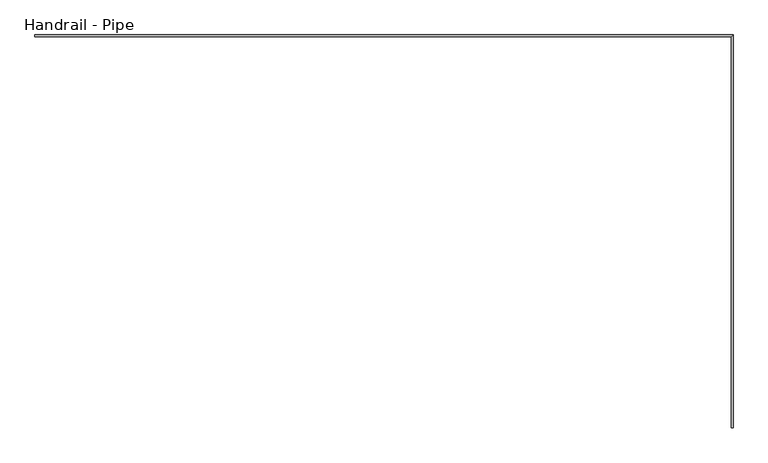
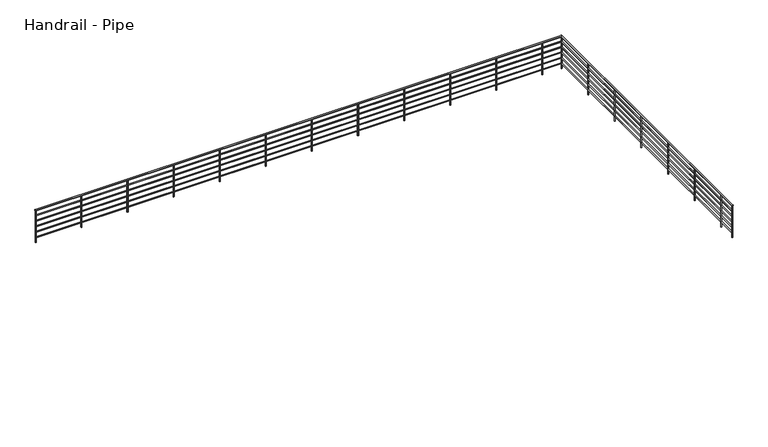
"""IFC4 building model written with IfcOpenShell, lengths in millimetres: railing geometry, Handrail - Pipe."""

from ifc_helpers import new_model, si_unit, point, frame, frame_2d, origin, place, context, project, spatial, circle_curve, ellipse_curve, trimmed, segment, composite_curve, outline, extrude, source, transform, mapped, element, save
from ifc_brep_helpers import plane_surface, cylinder_surface, advanced_brep


def handrail_pipe_d176f250(model_context):
    return source(origin(), model_context, "Body", "SolidModel", [
        advanced_brep(
        [(-11622.0589563, 11963.8816867, 3943.35), (-11622.0589563, 11925.7816867, 3943.35), (2316.1910437, 4121.6316867, 3943.35), (2278.0910437, 4121.6316867, 3943.35), (2316.1910437, 11963.8816867, 3943.35), (2278.0910437, 11925.7816867, 3943.35)],
        [
            (0, 1, circle_curve(frame((-11622.0589563, 11944.8316867, 3943.35), z_axis=(-1.0, 0.0, 0.0), x_axis=(0.0, -1.0, 0.0)), 19.05)),
            (1, 0, circle_curve(frame((-11622.0589563, 11944.8316867, 3943.35), z_axis=(-1.0, 0.0, 0.0), x_axis=(0.0, -1.0, 0.0)), 19.05)),
            (2, 3, circle_curve(frame((2297.1410437, 4121.6316867, 3943.35), z_axis=(0.0, -1.0, 0.0), x_axis=(-1.0, 0.0, 0.0)), 19.05)),
            (3, 2, circle_curve(frame((2297.1410437, 4121.6316867, 3943.35), z_axis=(0.0, -1.0, 0.0), x_axis=(-1.0, 0.0, 0.0)), 19.05)),
            (0, 4),
            (4, 5, ellipse_curve(frame((2297.1410437, 11944.8316867, 3943.35), z_axis=(-0.7071067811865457, 0.7071067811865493, 0.0), x_axis=(-0.7071067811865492, -0.7071067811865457, 0.0)), 26.9407684, 19.05)),
            (5, 1),
            (5, 4, ellipse_curve(frame((2297.1410437, 11944.8316867, 3943.35), z_axis=(-0.7071067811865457, 0.7071067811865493, 0.0), x_axis=(-0.7071067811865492, -0.7071067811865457, 0.0)), 26.9407684, 19.05)),
            (4, 2),
            (3, 5),
        ],
        [
            plane_surface(frame((-11622.0589563, 11944.8316867, 3962.4), z_axis=(-1.0, 0.0, 0.0), x_axis=(0.0, 1.0, 0.0))),
            plane_surface(frame((2297.1410437, 4121.6316867, 3962.4), z_axis=(0.0, -1.0, 0.0), x_axis=(0.0, 0.0, -1.0))),
            cylinder_surface(frame((-11622.0589563, 11944.8316867, 3943.35), z_axis=(-1.0, 0.0, 0.0), x_axis=(0.0, -1.0, 0.0)), 19.05),
            cylinder_surface(frame((2297.1410437, 11944.8316867, 3943.35), z_axis=(0.0, 1.0, 0.0), x_axis=(-1.0, 0.0, 0.0)), 19.05),
        ],
        [
            (0, [[1, 2]]),
            (1, [[3, 4]]),
            (2, [[-1, 5, 6, 7]]),
            (2, [[-2, -7, 8, -5]]),
            (3, [[-6, 9, -4, 10]]),
            (3, [[-8, -10, -3, -9]]),
        ],
    ),
        advanced_brep(
        [(-11622.0589563, 11957.5316867, 3797.3), (-11622.0589563, 11932.1316867, 3797.3), (2309.8410437, 11957.5316867, 3797.3), (2284.4410437, 11932.1316867, 3797.3), (2309.8410437, 4121.6316867, 3797.3), (2284.4410437, 4121.6316867, 3797.3)],
        [
            (0, 1, circle_curve(frame((-11622.0589563, 11944.8316867, 3797.3), z_axis=(-1.0, 0.0, 0.0), x_axis=(0.0, -1.0, 0.0)), 12.7)),
            (1, 0, circle_curve(frame((-11622.0589563, 11944.8316867, 3797.3), z_axis=(-1.0, 0.0, 0.0), x_axis=(0.0, -1.0, 0.0)), 12.7)),
            (0, 2),
            (2, 3, ellipse_curve(frame((2297.1410437, 11944.8316867, 3797.3), z_axis=(-0.7071067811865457, 0.7071067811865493, 0.0), x_axis=(-0.7071067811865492, -0.7071067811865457, 0.0)), 17.9605122, 12.7)),
            (3, 1),
            (3, 2, ellipse_curve(frame((2297.1410437, 11944.8316867, 3797.3), z_axis=(-0.7071067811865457, 0.7071067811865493, 0.0), x_axis=(-0.7071067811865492, -0.7071067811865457, 0.0)), 17.9605122, 12.7)),
            (4, 5, circle_curve(frame((2297.1410437, 4121.6316867, 3797.3), z_axis=(0.0, -1.0, 0.0), x_axis=(-1.0, 0.0, 0.0)), 12.7)),
            (5, 4, circle_curve(frame((2297.1410437, 4121.6316867, 3797.3), z_axis=(0.0, -1.0, 0.0), x_axis=(-1.0, 0.0, 0.0)), 12.7)),
            (2, 4),
            (5, 3),
        ],
        [
            plane_surface(frame((-11622.0589563, 11944.8316867, 3810.0), z_axis=(-1.0, 0.0, 0.0), x_axis=(0.0, 1.0, 0.0))),
            cylinder_surface(frame((-11622.0589563, 11944.8316867, 3797.3), z_axis=(-1.0, 0.0, 0.0), x_axis=(0.0, -1.0, 0.0)), 12.7),
            plane_surface(frame((2297.1410437, 4121.6316867, 3810.0), z_axis=(0.0, -1.0, 0.0), x_axis=(0.0, 0.0, -1.0))),
            cylinder_surface(frame((2297.1410437, 11944.8316867, 3797.3), z_axis=(0.0, 1.0, 0.0), x_axis=(-1.0, 0.0, 0.0)), 12.7),
        ],
        [
            (0, [[1, 2]]),
            (1, [[-1, 3, 4, 5]]),
            (1, [[-2, -5, 6, -3]]),
            (2, [[7, 8]]),
            (3, [[-4, 9, -8, 10]]),
            (3, [[-6, -10, -7, -9]]),
        ],
    ),
        advanced_brep(
        [(-11622.0589563, 11957.5316867, 3644.9), (-11622.0589563, 11932.1316867, 3644.9), (2309.8410437, 11957.5316867, 3644.9), (2284.4410437, 11932.1316867, 3644.9), (2309.8410437, 4121.6316867, 3644.9), (2284.4410437, 4121.6316867, 3644.9)],
        [
            (0, 1, circle_curve(frame((-11622.0589563, 11944.8316867, 3644.9), z_axis=(-1.0, 0.0, 0.0), x_axis=(0.0, -1.0, 0.0)), 12.7)),
            (1, 0, circle_curve(frame((-11622.0589563, 11944.8316867, 3644.9), z_axis=(-1.0, 0.0, 0.0), x_axis=(0.0, -1.0, 0.0)), 12.7)),
            (0, 2),
            (2, 3, ellipse_curve(frame((2297.1410437, 11944.8316867, 3644.9), z_axis=(-0.7071067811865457, 0.7071067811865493, 0.0), x_axis=(-0.7071067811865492, -0.7071067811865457, 0.0)), 17.9605122, 12.7)),
            (3, 1),
            (3, 2, ellipse_curve(frame((2297.1410437, 11944.8316867, 3644.9), z_axis=(-0.7071067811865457, 0.7071067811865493, 0.0), x_axis=(-0.7071067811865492, -0.7071067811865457, 0.0)), 17.9605122, 12.7)),
            (4, 5, circle_curve(frame((2297.1410437, 4121.6316867, 3644.9), z_axis=(0.0, -1.0, 0.0), x_axis=(-1.0, 0.0, 0.0)), 12.7)),
            (5, 4, circle_curve(frame((2297.1410437, 4121.6316867, 3644.9), z_axis=(0.0, -1.0, 0.0), x_axis=(-1.0, 0.0, 0.0)), 12.7)),
            (2, 4),
            (5, 3),
        ],
        [
            plane_surface(frame((-11622.0589563, 11944.8316867, 3657.6), z_axis=(-1.0, 0.0, 0.0), x_axis=(0.0, 1.0, 0.0))),
            cylinder_surface(frame((-11622.0589563, 11944.8316867, 3644.9), z_axis=(-1.0, 0.0, 0.0), x_axis=(0.0, -1.0, 0.0)), 12.7),
            plane_surface(frame((2297.1410437, 4121.6316867, 3657.6), z_axis=(0.0, -1.0, 0.0), x_axis=(0.0, 0.0, -1.0))),
            cylinder_surface(frame((2297.1410437, 11944.8316867, 3644.9), z_axis=(0.0, 1.0, 0.0), x_axis=(-1.0, 0.0, 0.0)), 12.7),
        ],
        [
            (0, [[1, 2]]),
            (1, [[-1, 3, 4, 5]]),
            (1, [[-2, -5, 6, -3]]),
            (2, [[7, 8]]),
            (3, [[-4, 9, -8, 10]]),
            (3, [[-6, -10, -7, -9]]),
        ],
    ),
        advanced_brep(
        [(-11622.0589563, 11957.5316867, 3492.5), (-11622.0589563, 11932.1316867, 3492.5), (2309.8410437, 11957.5316867, 3492.5), (2284.4410437, 11932.1316867, 3492.5), (2309.8410437, 4121.6316867, 3492.5), (2284.4410437, 4121.6316867, 3492.5)],
        [
            (0, 1, circle_curve(frame((-11622.0589563, 11944.8316867, 3492.5), z_axis=(-1.0, 0.0, 0.0), x_axis=(0.0, -1.0, 0.0)), 12.7)),
            (1, 0, circle_curve(frame((-11622.0589563, 11944.8316867, 3492.5), z_axis=(-1.0, 0.0, 0.0), x_axis=(0.0, -1.0, 0.0)), 12.7)),
            (0, 2),
            (2, 3, ellipse_curve(frame((2297.1410437, 11944.8316867, 3492.5), z_axis=(-0.7071067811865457, 0.7071067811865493, 0.0), x_axis=(-0.7071067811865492, -0.7071067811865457, 0.0)), 17.9605122, 12.7)),
            (3, 1),
            (3, 2, ellipse_curve(frame((2297.1410437, 11944.8316867, 3492.5), z_axis=(-0.7071067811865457, 0.7071067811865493, 0.0), x_axis=(-0.7071067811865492, -0.7071067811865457, 0.0)), 17.9605122, 12.7)),
            (4, 5, circle_curve(frame((2297.1410437, 4121.6316867, 3492.5), z_axis=(0.0, -1.0, 0.0), x_axis=(-1.0, 0.0, 0.0)), 12.7)),
            (5, 4, circle_curve(frame((2297.1410437, 4121.6316867, 3492.5), z_axis=(0.0, -1.0, 0.0), x_axis=(-1.0, 0.0, 0.0)), 12.7)),
            (2, 4),
            (5, 3),
        ],
        [
            plane_surface(frame((-11622.0589563, 11944.8316867, 3505.2), z_axis=(-1.0, 0.0, 0.0), x_axis=(0.0, 1.0, 0.0))),
            cylinder_surface(frame((-11622.0589563, 11944.8316867, 3492.5), z_axis=(-1.0, 0.0, 0.0), x_axis=(0.0, -1.0, 0.0)), 12.7),
            plane_surface(frame((2297.1410437, 4121.6316867, 3505.2), z_axis=(0.0, -1.0, 0.0), x_axis=(0.0, 0.0, -1.0))),
            cylinder_surface(frame((2297.1410437, 11944.8316867, 3492.5), z_axis=(0.0, 1.0, 0.0), x_axis=(-1.0, 0.0, 0.0)), 12.7),
        ],
        [
            (0, [[1, 2]]),
            (1, [[-1, 3, 4, 5]]),
            (1, [[-2, -5, 6, -3]]),
            (2, [[7, 8]]),
            (3, [[-4, 9, -8, 10]]),
            (3, [[-6, -10, -7, -9]]),
        ],
    ),
        advanced_brep(
        [(-11622.0589563, 11957.5316867, 3340.1), (-11622.0589563, 11932.1316867, 3340.1), (2309.8410437, 11957.5316867, 3340.1), (2284.4410437, 11932.1316867, 3340.1), (2309.8410437, 4121.6316867, 3340.1), (2284.4410437, 4121.6316867, 3340.1)],
        [
            (0, 1, circle_curve(frame((-11622.0589563, 11944.8316867, 3340.1), z_axis=(-1.0, 0.0, 0.0), x_axis=(0.0, -1.0, 0.0)), 12.7)),
            (1, 0, circle_curve(frame((-11622.0589563, 11944.8316867, 3340.1), z_axis=(-1.0, 0.0, 0.0), x_axis=(0.0, -1.0, 0.0)), 12.7)),
            (0, 2),
            (2, 3, ellipse_curve(frame((2297.1410437, 11944.8316867, 3340.1), z_axis=(-0.7071067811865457, 0.7071067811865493, 0.0), x_axis=(-0.7071067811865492, -0.7071067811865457, 0.0)), 17.9605122, 12.7)),
            (3, 1),
            (3, 2, ellipse_curve(frame((2297.1410437, 11944.8316867, 3340.1), z_axis=(-0.7071067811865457, 0.7071067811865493, 0.0), x_axis=(-0.7071067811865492, -0.7071067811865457, 0.0)), 17.9605122, 12.7)),
            (4, 5, circle_curve(frame((2297.1410437, 4121.6316867, 3340.1), z_axis=(0.0, -1.0, 0.0), x_axis=(-1.0, 0.0, 0.0)), 12.7)),
            (5, 4, circle_curve(frame((2297.1410437, 4121.6316867, 3340.1), z_axis=(0.0, -1.0, 0.0), x_axis=(-1.0, 0.0, 0.0)), 12.7)),
            (2, 4),
            (5, 3),
        ],
        [
            plane_surface(frame((-11622.0589563, 11944.8316867, 3352.8), z_axis=(-1.0, 0.0, 0.0), x_axis=(0.0, 1.0, 0.0))),
            cylinder_surface(frame((-11622.0589563, 11944.8316867, 3340.1), z_axis=(-1.0, 0.0, 0.0), x_axis=(0.0, -1.0, 0.0)), 12.7),
            plane_surface(frame((2297.1410437, 4121.6316867, 3352.8), z_axis=(0.0, -1.0, 0.0), x_axis=(0.0, 0.0, -1.0))),
            cylinder_surface(frame((2297.1410437, 11944.8316867, 3340.1), z_axis=(0.0, 1.0, 0.0), x_axis=(-1.0, 0.0, 0.0)), 12.7),
        ],
        [
            (0, [[1, 2]]),
            (1, [[-1, 3, 4, 5]]),
            (1, [[-2, -5, 6, -3]]),
            (2, [[7, 8]]),
            (3, [[-4, 9, -8, 10]]),
            (3, [[-6, -10, -7, -9]]),
        ],
    ),
        advanced_brep(
        [(-11622.0589563, 11957.5316867, 3187.7), (-11622.0589563, 11932.1316867, 3187.7), (2309.8410437, 11957.5316867, 3187.7), (2284.4410437, 11932.1316867, 3187.7), (2309.8410437, 4121.6316867, 3187.7), (2284.4410437, 4121.6316867, 3187.7)],
        [
            (0, 1, circle_curve(frame((-11622.0589563, 11944.8316867, 3187.7), z_axis=(-1.0, 0.0, 0.0), x_axis=(0.0, -1.0, 0.0)), 12.7)),
            (1, 0, circle_curve(frame((-11622.0589563, 11944.8316867, 3187.7), z_axis=(-1.0, 0.0, 0.0), x_axis=(0.0, -1.0, 0.0)), 12.7)),
            (0, 2),
            (2, 3, ellipse_curve(frame((2297.1410437, 11944.8316867, 3187.7), z_axis=(-0.7071067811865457, 0.7071067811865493, 0.0), x_axis=(-0.7071067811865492, -0.7071067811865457, 0.0)), 17.9605122, 12.7)),
            (3, 1),
            (3, 2, ellipse_curve(frame((2297.1410437, 11944.8316867, 3187.7), z_axis=(-0.7071067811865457, 0.7071067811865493, 0.0), x_axis=(-0.7071067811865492, -0.7071067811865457, 0.0)), 17.9605122, 12.7)),
            (4, 5, circle_curve(frame((2297.1410437, 4121.6316867, 3187.7), z_axis=(0.0, -1.0, 0.0), x_axis=(-1.0, 0.0, 0.0)), 12.7)),
            (5, 4, circle_curve(frame((2297.1410437, 4121.6316867, 3187.7), z_axis=(0.0, -1.0, 0.0), x_axis=(-1.0, 0.0, 0.0)), 12.7)),
            (2, 4),
            (5, 3),
        ],
        [
            plane_surface(frame((-11622.0589563, 11944.8316867, 3200.4), z_axis=(-1.0, 0.0, 0.0), x_axis=(0.0, 1.0, 0.0))),
            cylinder_surface(frame((-11622.0589563, 11944.8316867, 3187.7), z_axis=(-1.0, 0.0, 0.0), x_axis=(0.0, -1.0, 0.0)), 12.7),
            plane_surface(frame((2297.1410437, 4121.6316867, 3200.4), z_axis=(0.0, -1.0, 0.0), x_axis=(0.0, 0.0, -1.0))),
            cylinder_surface(frame((2297.1410437, 11944.8316867, 3187.7), z_axis=(0.0, 1.0, 0.0), x_axis=(-1.0, 0.0, 0.0)), 12.7),
        ],
        [
            (0, [[1, 2]]),
            (1, [[-1, 3, 4, 5]]),
            (1, [[-2, -5, 6, -3]]),
            (2, [[7, 8]]),
            (3, [[-4, 9, -8, 10]]),
            (3, [[-6, -10, -7, -9]]),
        ],
    ),
        extrude(outline(composite_curve([segment(trimmed(circle_curve(frame_2d((2297.1410437, 4629.6316867)), 12.7), [point((2309.8410437, 4629.6316867))], [point((2284.4410437, 4629.6316867))], False, "CARTESIAN"), True, "CONTINUOUS"), segment(trimmed(circle_curve(frame_2d((2297.1410437, 4629.6316867)), 12.7), [point((2284.4410437, 4629.6316867))], [point((2309.8410437, 4629.6316867))], False, "CARTESIAN"), True, "CONTINUOUS")], self_intersect=False)), frame((0.0, 0.0, 3048.0), z_axis=(0.0, 0.0, 1.0), x_axis=(1.0, 0.0, 0.0)), (0.0, 0.0, 1.0), 876.3),
        extrude(outline(composite_curve([segment(trimmed(circle_curve(frame_2d((2297.1410437, 5848.8316867)), 12.7), [point((2309.8410437, 5848.8316867))], [point((2284.4410437, 5848.8316867))], False, "CARTESIAN"), True, "CONTINUOUS"), segment(trimmed(circle_curve(frame_2d((2297.1410437, 5848.8316867)), 12.7), [point((2284.4410437, 5848.8316867))], [point((2309.8410437, 5848.8316867))], False, "CARTESIAN"), True, "CONTINUOUS")], self_intersect=False)), frame((0.0, 0.0, 3048.0), z_axis=(0.0, 0.0, 1.0), x_axis=(1.0, 0.0, 0.0)), (0.0, 0.0, 1.0), 876.3),
        extrude(outline(composite_curve([segment(trimmed(circle_curve(frame_2d((2297.1410437, 7068.0316867)), 12.7), [point((2309.8410437, 7068.0316867))], [point((2284.4410437, 7068.0316867))], False, "CARTESIAN"), True, "CONTINUOUS"), segment(trimmed(circle_curve(frame_2d((2297.1410437, 7068.0316867)), 12.7), [point((2284.4410437, 7068.0316867))], [point((2309.8410437, 7068.0316867))], False, "CARTESIAN"), True, "CONTINUOUS")], self_intersect=False)), frame((0.0, 0.0, 3048.0), z_axis=(0.0, 0.0, 1.0), x_axis=(1.0, 0.0, 0.0)), (0.0, 0.0, 1.0), 876.3),
        extrude(outline(composite_curve([segment(trimmed(circle_curve(frame_2d((2297.1410437, 8287.2316867)), 12.7), [point((2309.8410437, 8287.2316867))], [point((2284.4410437, 8287.2316867))], False, "CARTESIAN"), True, "CONTINUOUS"), segment(trimmed(circle_curve(frame_2d((2297.1410437, 8287.2316867)), 12.7), [point((2284.4410437, 8287.2316867))], [point((2309.8410437, 8287.2316867))], False, "CARTESIAN"), True, "CONTINUOUS")], self_intersect=False)), frame((0.0, 0.0, 3048.0), z_axis=(0.0, 0.0, 1.0), x_axis=(1.0, 0.0, 0.0)), (0.0, 0.0, 1.0), 876.3),
        extrude(outline(composite_curve([segment(trimmed(circle_curve(frame_2d((2297.1410437, 9506.4316867)), 12.7), [point((2309.8410437, 9506.4316867))], [point((2284.4410437, 9506.4316867))], False, "CARTESIAN"), True, "CONTINUOUS"), segment(trimmed(circle_curve(frame_2d((2297.1410437, 9506.4316867)), 12.7), [point((2284.4410437, 9506.4316867))], [point((2309.8410437, 9506.4316867))], False, "CARTESIAN"), True, "CONTINUOUS")], self_intersect=False)), frame((0.0, 0.0, 3048.0), z_axis=(0.0, 0.0, 1.0), x_axis=(1.0, 0.0, 0.0)), (0.0, 0.0, 1.0), 876.3),
        extrude(outline(composite_curve([segment(trimmed(circle_curve(frame_2d((2297.1410437, 10725.6316867)), 12.7), [point((2309.8410437, 10725.6316867))], [point((2284.4410437, 10725.6316867))], False, "CARTESIAN"), True, "CONTINUOUS"), segment(trimmed(circle_curve(frame_2d((2297.1410437, 10725.6316867)), 12.7), [point((2284.4410437, 10725.6316867))], [point((2309.8410437, 10725.6316867))], False, "CARTESIAN"), True, "CONTINUOUS")], self_intersect=False)), frame((0.0, 0.0, 3048.0), z_axis=(0.0, 0.0, 1.0), x_axis=(1.0, 0.0, 0.0)), (0.0, 0.0, 1.0), 876.3),
        extrude(outline(composite_curve([segment(trimmed(circle_curve(frame_2d((1789.1410437, 11944.8316867)), 12.7), [point((1789.1410437, 11957.5316867))], [point((1789.1410437, 11932.1316867))], False, "CARTESIAN"), True, "CONTINUOUS"), segment(trimmed(circle_curve(frame_2d((1789.1410437, 11944.8316867)), 12.7), [point((1789.1410437, 11932.1316867))], [point((1789.1410437, 11957.5316867))], False, "CARTESIAN"), True, "CONTINUOUS")], self_intersect=False)), frame((0.0, 0.0, 3048.0), z_axis=(0.0, 0.0, 1.0), x_axis=(1.0, 0.0, 0.0)), (0.0, 0.0, 1.0), 876.3),
        extrude(outline(composite_curve([segment(trimmed(circle_curve(frame_2d((569.9410437, 11944.8316867)), 12.7), [point((569.9410437, 11957.5316867))], [point((569.9410437, 11932.1316867))], False, "CARTESIAN"), True, "CONTINUOUS"), segment(trimmed(circle_curve(frame_2d((569.9410437, 11944.8316867)), 12.7), [point((569.9410437, 11932.1316867))], [point((569.9410437, 11957.5316867))], False, "CARTESIAN"), True, "CONTINUOUS")], self_intersect=False)), frame((0.0, 0.0, 3048.0), z_axis=(0.0, 0.0, 1.0), x_axis=(1.0, 0.0, 0.0)), (0.0, 0.0, 1.0), 876.3),
        extrude(outline(composite_curve([segment(trimmed(circle_curve(frame_2d((-649.2589563, 11944.8316867)), 12.7), [point((-649.2589563, 11957.5316867))], [point((-649.2589563, 11932.1316867))], False, "CARTESIAN"), True, "CONTINUOUS"), segment(trimmed(circle_curve(frame_2d((-649.2589563, 11944.8316867)), 12.7), [point((-649.2589563, 11932.1316867))], [point((-649.2589563, 11957.5316867))], False, "CARTESIAN"), True, "CONTINUOUS")], self_intersect=False)), frame((0.0, 0.0, 3048.0), z_axis=(0.0, 0.0, 1.0), x_axis=(1.0, 0.0, 0.0)), (0.0, 0.0, 1.0), 876.3),
        extrude(outline(composite_curve([segment(trimmed(circle_curve(frame_2d((-1868.4589563, 11944.8316867)), 12.7), [point((-1868.4589563, 11957.5316867))], [point((-1868.4589563, 11932.1316867))], False, "CARTESIAN"), True, "CONTINUOUS"), segment(trimmed(circle_curve(frame_2d((-1868.4589563, 11944.8316867)), 12.7), [point((-1868.4589563, 11932.1316867))], [point((-1868.4589563, 11957.5316867))], False, "CARTESIAN"), True, "CONTINUOUS")], self_intersect=False)), frame((0.0, 0.0, 3048.0), z_axis=(0.0, 0.0, 1.0), x_axis=(1.0, 0.0, 0.0)), (0.0, 0.0, 1.0), 876.3),
        extrude(outline(composite_curve([segment(trimmed(circle_curve(frame_2d((-3087.6589563, 11944.8316867)), 12.7), [point((-3087.6589563, 11957.5316867))], [point((-3087.6589563, 11932.1316867))], False, "CARTESIAN"), True, "CONTINUOUS"), segment(trimmed(circle_curve(frame_2d((-3087.6589563, 11944.8316867)), 12.7), [point((-3087.6589563, 11932.1316867))], [point((-3087.6589563, 11957.5316867))], False, "CARTESIAN"), True, "CONTINUOUS")], self_intersect=False)), frame((0.0, 0.0, 3048.0), z_axis=(0.0, 0.0, 1.0), x_axis=(1.0, 0.0, 0.0)), (0.0, 0.0, 1.0), 876.3),
        extrude(outline(composite_curve([segment(trimmed(circle_curve(frame_2d((-4306.8589563, 11944.8316867)), 12.7), [point((-4306.8589563, 11957.5316867))], [point((-4306.8589563, 11932.1316867))], False, "CARTESIAN"), True, "CONTINUOUS"), segment(trimmed(circle_curve(frame_2d((-4306.8589563, 11944.8316867)), 12.7), [point((-4306.8589563, 11932.1316867))], [point((-4306.8589563, 11957.5316867))], False, "CARTESIAN"), True, "CONTINUOUS")], self_intersect=False)), frame((0.0, 0.0, 3048.0), z_axis=(0.0, 0.0, 1.0), x_axis=(1.0, 0.0, 0.0)), (0.0, 0.0, 1.0), 876.3),
        extrude(outline(composite_curve([segment(trimmed(circle_curve(frame_2d((-5526.0589563, 11944.8316867)), 12.7), [point((-5526.0589563, 11957.5316867))], [point((-5526.0589563, 11932.1316867))], False, "CARTESIAN"), True, "CONTINUOUS"), segment(trimmed(circle_curve(frame_2d((-5526.0589563, 11944.8316867)), 12.7), [point((-5526.0589563, 11932.1316867))], [point((-5526.0589563, 11957.5316867))], False, "CARTESIAN"), True, "CONTINUOUS")], self_intersect=False)), frame((0.0, 0.0, 3048.0), z_axis=(0.0, 0.0, 1.0), x_axis=(1.0, 0.0, 0.0)), (0.0, 0.0, 1.0), 876.3),
        extrude(outline(composite_curve([segment(trimmed(circle_curve(frame_2d((-6745.2589563, 11944.8316867)), 12.7), [point((-6745.2589563, 11957.5316867))], [point((-6745.2589563, 11932.1316867))], False, "CARTESIAN"), True, "CONTINUOUS"), segment(trimmed(circle_curve(frame_2d((-6745.2589563, 11944.8316867)), 12.7), [point((-6745.2589563, 11932.1316867))], [point((-6745.2589563, 11957.5316867))], False, "CARTESIAN"), True, "CONTINUOUS")], self_intersect=False)), frame((0.0, 0.0, 3048.0), z_axis=(0.0, 0.0, 1.0), x_axis=(1.0, 0.0, 0.0)), (0.0, 0.0, 1.0), 876.3),
        extrude(outline(composite_curve([segment(trimmed(circle_curve(frame_2d((-7964.4589563, 11944.8316867)), 12.7), [point((-7964.4589563, 11957.5316867))], [point((-7964.4589563, 11932.1316867))], False, "CARTESIAN"), True, "CONTINUOUS"), segment(trimmed(circle_curve(frame_2d((-7964.4589563, 11944.8316867)), 12.7), [point((-7964.4589563, 11932.1316867))], [point((-7964.4589563, 11957.5316867))], False, "CARTESIAN"), True, "CONTINUOUS")], self_intersect=False)), frame((0.0, 0.0, 3048.0), z_axis=(0.0, 0.0, 1.0), x_axis=(1.0, 0.0, 0.0)), (0.0, 0.0, 1.0), 876.3),
        extrude(outline(composite_curve([segment(trimmed(circle_curve(frame_2d((-9183.6589563, 11944.8316867)), 12.7), [point((-9183.6589563, 11957.5316867))], [point((-9183.6589563, 11932.1316867))], False, "CARTESIAN"), True, "CONTINUOUS"), segment(trimmed(circle_curve(frame_2d((-9183.6589563, 11944.8316867)), 12.7), [point((-9183.6589563, 11932.1316867))], [point((-9183.6589563, 11957.5316867))], False, "CARTESIAN"), True, "CONTINUOUS")], self_intersect=False)), frame((0.0, 0.0, 3048.0), z_axis=(0.0, 0.0, 1.0), x_axis=(1.0, 0.0, 0.0)), (0.0, 0.0, 1.0), 876.3),
        extrude(outline(composite_curve([segment(trimmed(circle_curve(frame_2d((-10402.8589563, 11944.8316867)), 12.7), [point((-10402.8589563, 11957.5316867))], [point((-10402.8589563, 11932.1316867))], False, "CARTESIAN"), True, "CONTINUOUS"), segment(trimmed(circle_curve(frame_2d((-10402.8589563, 11944.8316867)), 12.7), [point((-10402.8589563, 11932.1316867))], [point((-10402.8589563, 11957.5316867))], False, "CARTESIAN"), True, "CONTINUOUS")], self_intersect=False)), frame((0.0, 0.0, 3048.0), z_axis=(0.0, 0.0, 1.0), x_axis=(1.0, 0.0, 0.0)), (0.0, 0.0, 1.0), 876.3),
        extrude(outline(composite_curve([segment(trimmed(circle_curve(frame_2d((2297.1410437, 11944.8316867)), 12.7), [point((2297.1410437, 11957.5316867))], [point((2297.1410437, 11932.1316867))], False, "CARTESIAN"), True, "CONTINUOUS"), segment(trimmed(circle_curve(frame_2d((2297.1410437, 11944.8316867)), 12.7), [point((2297.1410437, 11932.1316867))], [point((2297.1410437, 11957.5316867))], False, "CARTESIAN"), True, "CONTINUOUS")], self_intersect=False)), frame((0.0, 0.0, 3048.0), z_axis=(0.0, 0.0, 1.0), x_axis=(1.0, 0.0, 0.0)), (0.0, 0.0, 1.0), 876.3),
        extrude(outline(composite_curve([segment(trimmed(circle_curve(frame_2d((2297.1410437, 4134.3316867)), 12.7), [point((2309.8410437, 4134.3316867))], [point((2284.4410437, 4134.3316867))], False, "CARTESIAN"), True, "CONTINUOUS"), segment(trimmed(circle_curve(frame_2d((2297.1410437, 4134.3316867)), 12.7), [point((2284.4410437, 4134.3316867))], [point((2309.8410437, 4134.3316867))], False, "CARTESIAN"), True, "CONTINUOUS")], self_intersect=False)), frame((0.0, 0.0, 3048.0), z_axis=(0.0, 0.0, 1.0), x_axis=(1.0, 0.0, 0.0)), (0.0, 0.0, 1.0), 876.3),
        extrude(outline(composite_curve([segment(trimmed(circle_curve(frame_2d((-11609.3589563, 11944.8316867)), 12.7), [point((-11609.3589563, 11957.5316867))], [point((-11609.3589563, 11932.1316867))], False, "CARTESIAN"), True, "CONTINUOUS"), segment(trimmed(circle_curve(frame_2d((-11609.3589563, 11944.8316867)), 12.7), [point((-11609.3589563, 11932.1316867))], [point((-11609.3589563, 11957.5316867))], False, "CARTESIAN"), True, "CONTINUOUS")], self_intersect=False)), frame((0.0, 0.0, 3048.0), z_axis=(0.0, 0.0, 1.0), x_axis=(1.0, 0.0, 0.0)), (0.0, 0.0, 1.0), 876.3),
    ])


if __name__ == "__main__":
    model = new_model("IFC4")
    model_context = context("Model", 3, world=origin())
    ifc_project = project(units=[si_unit("LENGTHUNIT", "METRE", prefix="MILLI")], contexts=[model_context])
    site = spatial("IfcSite", under=ifc_project)
    building = spatial("IfcBuilding", under=site)
    placement = place(None, origin())
    handrail_pipe_shape = handrail_pipe_d176f250(model_context)
    element("IfcRailing", 1, ObjectType="Handrail - Pipe", at=placement, inside=building, context=model_context, shape_type="MappedRepresentation", body=[
        mapped(handrail_pipe_shape, transform((0.0, 0.0, 0.0), x_axis=(1.0, 0.0, 0.0), y_axis=(0.0, 1.0, 0.0), z_axis=(0.0, 0.0, 1.0))),
    ])
    save(model, "model.ifc")
